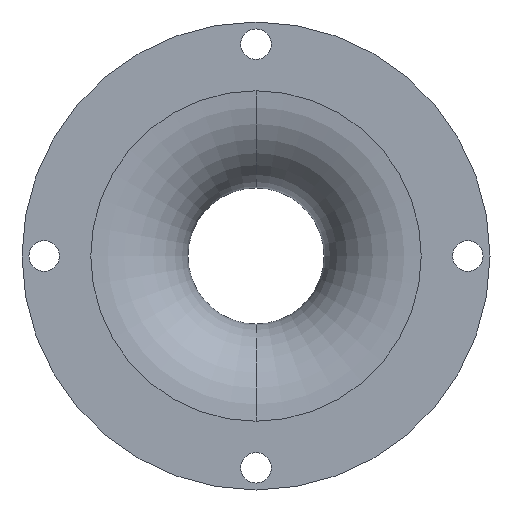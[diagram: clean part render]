
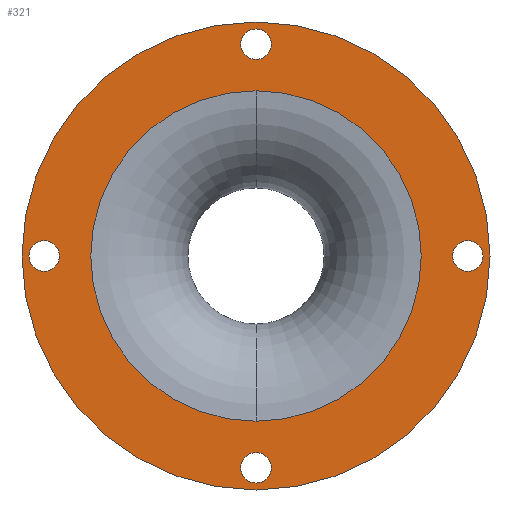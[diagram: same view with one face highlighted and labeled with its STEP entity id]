
A CAD part, front view. The second image highlights one B-rep face of the part: STEP entity #321.
In plain terms, the highlighted planar face has unit normal (0, -1, 0).
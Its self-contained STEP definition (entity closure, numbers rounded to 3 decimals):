
#18 = CARTESIAN_POINT ( 'NONE',  ( 15.25, 0., 1.1 ) ) ;
#20 = CARTESIAN_POINT ( 'NONE',  ( 0., 0., -11.9 ) ) ;
#22 = EDGE_CURVE ( 'NONE', #151, #206, #122, .T. ) ;
#25 = CIRCLE ( 'NONE', #295, 1.1 ) ;
#26 = DIRECTION ( 'NONE',  ( 0., 1., 0. ) ) ;
#28 = VERTEX_POINT ( 'NONE', #297 ) ;
#30 = CARTESIAN_POINT ( 'NONE',  ( -15.25, 0., 0. ) ) ;
#34 = CARTESIAN_POINT ( 'NONE',  ( 0., 0., -16.85 ) ) ;
#40 = CARTESIAN_POINT ( 'NONE',  ( 0., 0., 16.85 ) ) ;
#41 = EDGE_CURVE ( 'NONE', #694, #159, #388, .T. ) ;
#42 = CARTESIAN_POINT ( 'NONE',  ( 0., 0., 11.9 ) ) ;
#58 = CIRCLE ( 'NONE', #112, 1.1 ) ;
#63 = EDGE_LOOP ( 'NONE', ( #395, #517 ) ) ;
#65 = EDGE_CURVE ( 'NONE', #28, #128, #270, .T. ) ;
#66 = DIRECTION ( 'NONE',  ( 0., -1., 0. ) ) ;
#71 = CARTESIAN_POINT ( 'NONE',  ( -15.25, 0., 0. ) ) ;
#78 = AXIS2_PLACEMENT_3D ( 'NONE', #71, #563, #506 ) ;
#80 = EDGE_LOOP ( 'NONE', ( #651, #228 ) ) ;
#97 = ORIENTED_EDGE ( 'NONE', *, *, #207, .F. ) ;
#100 = AXIS2_PLACEMENT_3D ( 'NONE', #581, #507, #252 ) ;
#112 = AXIS2_PLACEMENT_3D ( 'NONE', #591, #385, #328 ) ;
#118 = DIRECTION ( 'NONE',  ( 0., 0., -1. ) ) ;
#122 = CIRCLE ( 'NONE', #599, 1.1 ) ;
#128 = VERTEX_POINT ( 'NONE', #312 ) ;
#138 = CARTESIAN_POINT ( 'NONE',  ( 0., 0., -15.25 ) ) ;
#151 = VERTEX_POINT ( 'NONE', #193 ) ;
#154 = CARTESIAN_POINT ( 'NONE',  ( -15.25, 0., 1.1 ) ) ;
#155 = ORIENTED_EDGE ( 'NONE', *, *, #417, .F. ) ;
#158 = AXIS2_PLACEMENT_3D ( 'NONE', #330, #442, #393 ) ;
#159 = VERTEX_POINT ( 'NONE', #42 ) ;
#182 = DIRECTION ( 'NONE',  ( 0., 0., -1. ) ) ;
#193 = CARTESIAN_POINT ( 'NONE',  ( -15.25, 0., -1.1 ) ) ;
#200 = CARTESIAN_POINT ( 'NONE',  ( 0., 0., 0. ) ) ;
#206 = VERTEX_POINT ( 'NONE', #154 ) ;
#207 = EDGE_CURVE ( 'NONE', #628, #454, #613, .T. ) ;
#211 = VERTEX_POINT ( 'NONE', #34 ) ;
#216 = EDGE_CURVE ( 'NONE', #636, #555, #25, .T. ) ;
#218 = FACE_BOUND ( 'NONE', #63, .T. ) ;
#219 = ORIENTED_EDGE ( 'NONE', *, *, #282, .T. ) ;
#227 = PLANE ( 'NONE',  #407 ) ;
#228 = ORIENTED_EDGE ( 'NONE', *, *, #65, .F. ) ;
#238 = AXIS2_PLACEMENT_3D ( 'NONE', #389, #66, #118 ) ;
#242 = DIRECTION ( 'NONE',  ( 0., 0., 1. ) ) ;
#243 = DIRECTION ( 'NONE',  ( 0., 0., 1. ) ) ;
#249 = DIRECTION ( 'NONE',  ( 0., -1., 0. ) ) ;
#252 = DIRECTION ( 'NONE',  ( 0., 0., -1. ) ) ;
#255 = CIRCLE ( 'NONE', #78, 1.1 ) ;
#270 = CIRCLE ( 'NONE', #504, 1.1 ) ;
#279 = ORIENTED_EDGE ( 'NONE', *, *, #470, .T. ) ;
#282 = EDGE_CURVE ( 'NONE', #441, #211, #649, .T. ) ;
#284 = CIRCLE ( 'NONE', #669, 1.1 ) ;
#289 = EDGE_LOOP ( 'NONE', ( #562, #448 ) ) ;
#295 = AXIS2_PLACEMENT_3D ( 'NONE', #673, #460, #677 ) ;
#297 = CARTESIAN_POINT ( 'NONE',  ( 0., 0., -14.15 ) ) ;
#306 = DIRECTION ( 'NONE',  ( 0., 1., 0. ) ) ;
#312 = CARTESIAN_POINT ( 'NONE',  ( 0., 0., -16.35 ) ) ;
#321 = ADVANCED_FACE ( 'NONE', ( #218, #378, #486, #332, #477, #325 ), #227, .F. ) ;
#325 = FACE_OUTER_BOUND ( 'NONE', #450, .T. ) ;
#328 = DIRECTION ( 'NONE',  ( 0., 0., -1. ) ) ;
#330 = CARTESIAN_POINT ( 'NONE',  ( 0., 0., -15.25 ) ) ;
#332 = FACE_BOUND ( 'NONE', #289, .T. ) ;
#336 = EDGE_CURVE ( 'NONE', #555, #636, #58, .T. ) ;
#347 = DIRECTION ( 'NONE',  ( 0., -1., 0. ) ) ;
#362 = EDGE_CURVE ( 'NONE', #206, #151, #255, .T. ) ;
#378 = FACE_BOUND ( 'NONE', #534, .T. ) ;
#385 = DIRECTION ( 'NONE',  ( 0., -1., 0. ) ) ;
#388 = CIRCLE ( 'NONE', #657, 11.9 ) ;
#389 = CARTESIAN_POINT ( 'NONE',  ( 0., 0., 0. ) ) ;
#392 = DIRECTION ( 'NONE',  ( 0., 0., -1. ) ) ;
#393 = DIRECTION ( 'NONE',  ( 0., 0., -1. ) ) ;
#395 = ORIENTED_EDGE ( 'NONE', *, *, #216, .F. ) ;
#407 = AXIS2_PLACEMENT_3D ( 'NONE', #438, #650, #440 ) ;
#414 = DIRECTION ( 'NONE',  ( 0., -1., 0. ) ) ;
#417 = EDGE_CURVE ( 'NONE', #454, #628, #284, .T. ) ;
#425 = CARTESIAN_POINT ( 'NONE',  ( 0., 0., 0. ) ) ;
#438 = CARTESIAN_POINT ( 'NONE',  ( -16.85, 0., 0. ) ) ;
#440 = DIRECTION ( 'NONE',  ( 0., 0., 1. ) ) ;
#441 = VERTEX_POINT ( 'NONE', #40 ) ;
#442 = DIRECTION ( 'NONE',  ( 0., -1., 0. ) ) ;
#446 = CARTESIAN_POINT ( 'NONE',  ( 0., 0., 0. ) ) ;
#448 = ORIENTED_EDGE ( 'NONE', *, *, #362, .F. ) ;
#450 = EDGE_LOOP ( 'NONE', ( #617, #219 ) ) ;
#454 = VERTEX_POINT ( 'NONE', #18 ) ;
#460 = DIRECTION ( 'NONE',  ( 0., -1., 0. ) ) ;
#470 = EDGE_CURVE ( 'NONE', #159, #694, #520, .T. ) ;
#472 = CARTESIAN_POINT ( 'NONE',  ( 15.25, 0., -1.1 ) ) ;
#477 = FACE_BOUND ( 'NONE', #684, .T. ) ;
#486 = FACE_BOUND ( 'NONE', #80, .T. ) ;
#493 = DIRECTION ( 'NONE',  ( 0., 0., -1. ) ) ;
#499 = CARTESIAN_POINT ( 'NONE',  ( 0., 0., 14.15 ) ) ;
#504 = AXIS2_PLACEMENT_3D ( 'NONE', #138, #660, #392 ) ;
#506 = DIRECTION ( 'NONE',  ( 0., 0., -1. ) ) ;
#507 = DIRECTION ( 'NONE',  ( 0., -1., 0. ) ) ;
#509 = CARTESIAN_POINT ( 'NONE',  ( 15.25, 0., 0. ) ) ;
#511 = CIRCLE ( 'NONE', #158, 1.1 ) ;
#514 = CIRCLE ( 'NONE', #645, 16.85 ) ;
#517 = ORIENTED_EDGE ( 'NONE', *, *, #336, .F. ) ;
#520 = CIRCLE ( 'NONE', #545, 11.9 ) ;
#534 = EDGE_LOOP ( 'NONE', ( #97, #155 ) ) ;
#535 = DIRECTION ( 'NONE',  ( 0., 0., -1. ) ) ;
#545 = AXIS2_PLACEMENT_3D ( 'NONE', #200, #306, #243 ) ;
#555 = VERTEX_POINT ( 'NONE', #644 ) ;
#562 = ORIENTED_EDGE ( 'NONE', *, *, #22, .F. ) ;
#563 = DIRECTION ( 'NONE',  ( 0., -1., 0. ) ) ;
#565 = EDGE_CURVE ( 'NONE', #211, #441, #514, .T. ) ;
#581 = CARTESIAN_POINT ( 'NONE',  ( 15.25, 0., 0. ) ) ;
#591 = CARTESIAN_POINT ( 'NONE',  ( 0., 0., 15.25 ) ) ;
#599 = AXIS2_PLACEMENT_3D ( 'NONE', #30, #347, #182 ) ;
#613 = CIRCLE ( 'NONE', #100, 1.1 ) ;
#617 = ORIENTED_EDGE ( 'NONE', *, *, #565, .T. ) ;
#628 = VERTEX_POINT ( 'NONE', #472 ) ;
#636 = VERTEX_POINT ( 'NONE', #499 ) ;
#640 = EDGE_CURVE ( 'NONE', #128, #28, #511, .T. ) ;
#644 = CARTESIAN_POINT ( 'NONE',  ( 0., 0., 16.35 ) ) ;
#645 = AXIS2_PLACEMENT_3D ( 'NONE', #425, #414, #535 ) ;
#649 = CIRCLE ( 'NONE', #238, 16.85 ) ;
#650 = DIRECTION ( 'NONE',  ( 0., 1., 0. ) ) ;
#651 = ORIENTED_EDGE ( 'NONE', *, *, #640, .F. ) ;
#657 = AXIS2_PLACEMENT_3D ( 'NONE', #446, #26, #242 ) ;
#660 = DIRECTION ( 'NONE',  ( 0., -1., 0. ) ) ;
#669 = AXIS2_PLACEMENT_3D ( 'NONE', #509, #249, #493 ) ;
#673 = CARTESIAN_POINT ( 'NONE',  ( 0., 0., 15.25 ) ) ;
#677 = DIRECTION ( 'NONE',  ( 0., 0., -1. ) ) ;
#684 = EDGE_LOOP ( 'NONE', ( #279, #691 ) ) ;
#691 = ORIENTED_EDGE ( 'NONE', *, *, #41, .T. ) ;
#694 = VERTEX_POINT ( 'NONE', #20 ) ;
